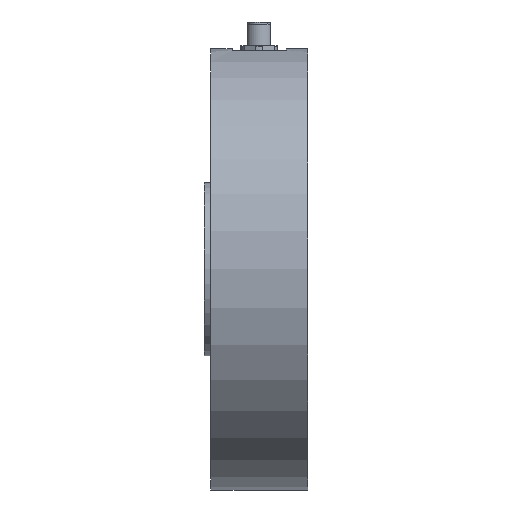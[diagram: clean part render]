
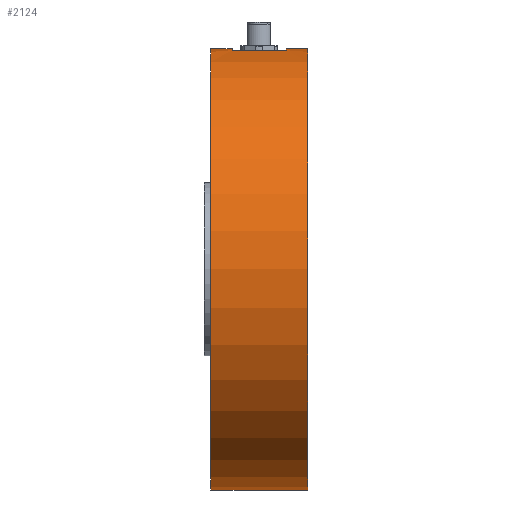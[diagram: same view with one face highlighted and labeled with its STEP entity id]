
A CAD part, left-side view. The second image highlights one B-rep face of the part: STEP entity #2124.
In plain terms, the highlighted cylindrical face has radius 101.5 mm (diameter 203 mm), a partial arc.
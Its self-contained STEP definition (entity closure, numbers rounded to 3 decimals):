
#53 = VERTEX_POINT ( 'NONE', #7983 ) ;
#142 = CARTESIAN_POINT ( 'NONE',  ( 0., 44.6, 101.5 ) ) ;
#298 = CARTESIAN_POINT ( 'NONE',  ( 0., 34.8, 0. ) ) ;
#419 = AXIS2_PLACEMENT_3D ( 'NONE', #7773, #6813, #9560 ) ;
#650 = DIRECTION ( 'NONE',  ( 0., 1., 0. ) ) ;
#977 = VECTOR ( 'NONE', #3573, 1000. ) ;
#1083 = VERTEX_POINT ( 'NONE', #2545 ) ;
#1148 = CARTESIAN_POINT ( 'NONE',  ( 0., 34.8, 101.5 ) ) ;
#1322 = VECTOR ( 'NONE', #2286, 1000. ) ;
#1720 = ORIENTED_EDGE ( 'NONE', *, *, #7913, .T. ) ;
#1898 = ORIENTED_EDGE ( 'NONE', *, *, #4198, .F. ) ;
#1907 = VECTOR ( 'NONE', #3365, 1000. ) ;
#2124 = ADVANCED_FACE ( 'NONE', ( #5247 ), #4344, .T. ) ;
#2286 = DIRECTION ( 'NONE',  ( 0., 1., 0. ) ) ;
#2545 = CARTESIAN_POINT ( 'NONE',  ( 0., 44.6, 101.5 ) ) ;
#2655 = DIRECTION ( 'NONE',  ( 0., -1., 0. ) ) ;
#2753 = CIRCLE ( 'NONE', #419, 101.5 ) ;
#2911 = EDGE_CURVE ( 'NONE', #53, #1083, #2753, .T. ) ;
#3365 = DIRECTION ( 'NONE',  ( 0., -1., 0. ) ) ;
#3386 = EDGE_CURVE ( 'NONE', #3599, #3986, #3913, .T. ) ;
#3573 = DIRECTION ( 'NONE',  ( 0., -1., 0. ) ) ;
#3599 = VERTEX_POINT ( 'NONE', #5216 ) ;
#3769 = EDGE_CURVE ( 'NONE', #9263, #5074, #3791, .T. ) ;
#3791 = LINE ( 'NONE', #142, #977 ) ;
#3913 = LINE ( 'NONE', #9088, #1322 ) ;
#3978 = ORIENTED_EDGE ( 'NONE', *, *, #3769, .F. ) ;
#3980 = CARTESIAN_POINT ( 'NONE',  ( 0., 9.8, 0. ) ) ;
#3986 = VERTEX_POINT ( 'NONE', #8442 ) ;
#4198 = EDGE_CURVE ( 'NONE', #1083, #9105, #8876, .T. ) ;
#4206 = LINE ( 'NONE', #11066, #1907 ) ;
#4283 = CARTESIAN_POINT ( 'NONE',  ( 0., 44.6, 0. ) ) ;
#4344 = CYLINDRICAL_SURFACE ( 'NONE', #7006, 101.5 ) ;
#4578 = ORIENTED_EDGE ( 'NONE', *, *, #7116, .T. ) ;
#4589 = DIRECTION ( 'NONE',  ( 0., -1., 0. ) ) ;
#4621 = CIRCLE ( 'NONE', #6070, 101.5 ) ;
#4645 = CARTESIAN_POINT ( 'NONE',  ( 0., 44.6, 101.5 ) ) ;
#5074 = VERTEX_POINT ( 'NONE', #6934 ) ;
#5167 = CIRCLE ( 'NONE', #7325, 101.5 ) ;
#5216 = CARTESIAN_POINT ( 'NONE',  ( -12.5, 9.8, 100.727 ) ) ;
#5247 = FACE_OUTER_BOUND ( 'NONE', #10097, .T. ) ;
#5525 = VERTEX_POINT ( 'NONE', #8714 ) ;
#6070 = AXIS2_PLACEMENT_3D ( 'NONE', #3980, #9945, #9892 ) ;
#6783 = EDGE_CURVE ( 'NONE', #53, #5525, #4206, .T. ) ;
#6813 = DIRECTION ( 'NONE',  ( 0., 1., 0. ) ) ;
#6830 = VECTOR ( 'NONE', #4589, 1000. ) ;
#6934 = CARTESIAN_POINT ( 'NONE',  ( 0., 0., 101.5 ) ) ;
#7006 = AXIS2_PLACEMENT_3D ( 'NONE', #4283, #2655, #7665 ) ;
#7113 = AXIS2_PLACEMENT_3D ( 'NONE', #9307, #650, #7466 ) ;
#7116 = EDGE_CURVE ( 'NONE', #5525, #5074, #9431, .T. ) ;
#7325 = AXIS2_PLACEMENT_3D ( 'NONE', #298, #8227, #9697 ) ;
#7394 = EDGE_CURVE ( 'NONE', #3986, #9105, #5167, .T. ) ;
#7466 = DIRECTION ( 'NONE',  ( 0., 0., 1. ) ) ;
#7560 = ORIENTED_EDGE ( 'NONE', *, *, #2911, .F. ) ;
#7665 = DIRECTION ( 'NONE',  ( 0., 0., -1. ) ) ;
#7773 = CARTESIAN_POINT ( 'NONE',  ( 0., 44.6, 0. ) ) ;
#7913 = EDGE_CURVE ( 'NONE', #9263, #3599, #4621, .T. ) ;
#7983 = CARTESIAN_POINT ( 'NONE',  ( 0., 44.6, -101.5 ) ) ;
#8227 = DIRECTION ( 'NONE',  ( 0., 1., 0. ) ) ;
#8442 = CARTESIAN_POINT ( 'NONE',  ( -12.5, 34.8, 100.727 ) ) ;
#8714 = CARTESIAN_POINT ( 'NONE',  ( 0., 0., -101.5 ) ) ;
#8876 = LINE ( 'NONE', #4645, #6830 ) ;
#8893 = ORIENTED_EDGE ( 'NONE', *, *, #7394, .T. ) ;
#8946 = ORIENTED_EDGE ( 'NONE', *, *, #3386, .T. ) ;
#9088 = CARTESIAN_POINT ( 'NONE',  ( -12.5, 44.6, 100.727 ) ) ;
#9105 = VERTEX_POINT ( 'NONE', #1148 ) ;
#9263 = VERTEX_POINT ( 'NONE', #9809 ) ;
#9307 = CARTESIAN_POINT ( 'NONE',  ( 0., 0., 0. ) ) ;
#9431 = CIRCLE ( 'NONE', #7113, 101.5 ) ;
#9560 = DIRECTION ( 'NONE',  ( 0., 0., 1. ) ) ;
#9697 = DIRECTION ( 'NONE',  ( 0., 0., 1. ) ) ;
#9809 = CARTESIAN_POINT ( 'NONE',  ( 0., 9.8, 101.5 ) ) ;
#9892 = DIRECTION ( 'NONE',  ( 0., 0., -1. ) ) ;
#9945 = DIRECTION ( 'NONE',  ( 0., -1., 0. ) ) ;
#10097 = EDGE_LOOP ( 'NONE', ( #1898, #7560, #10692, #4578, #3978, #1720, #8946, #8893 ) ) ;
#10692 = ORIENTED_EDGE ( 'NONE', *, *, #6783, .T. ) ;
#11066 = CARTESIAN_POINT ( 'NONE',  ( 0., 44.6, -101.5 ) ) ;
